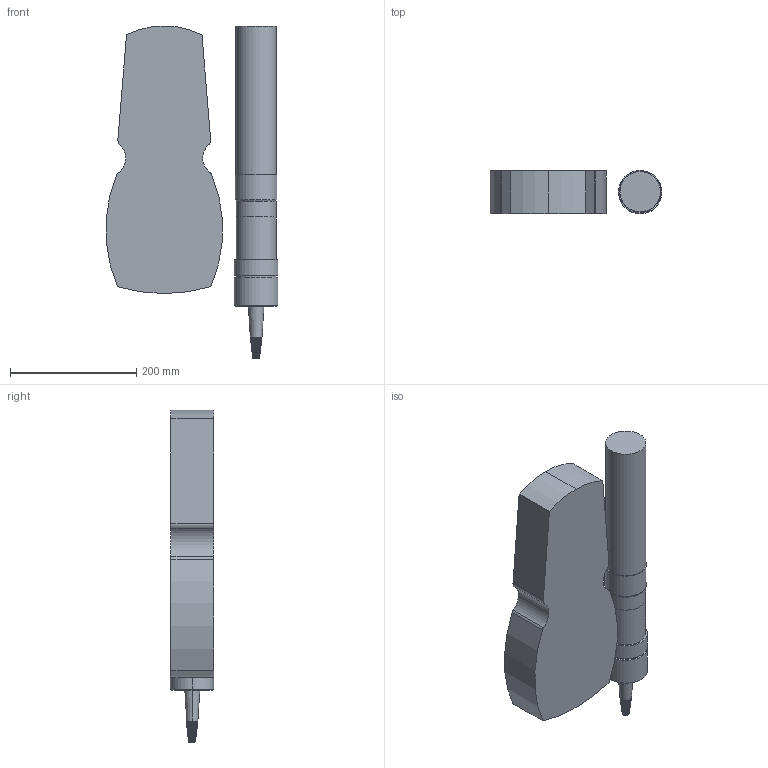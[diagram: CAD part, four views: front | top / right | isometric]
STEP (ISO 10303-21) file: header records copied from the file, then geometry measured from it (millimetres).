
FILE_DESCRIPTION((''),'2;1');
FILE_NAME('ASM0010_ASM','2026-01-26T10:12:24',('28740194'),(''),'CREO PARAMETRIC BY PTC INC, 2024063','CREO PARAMETRIC BY PTC INC, 2024063','');
FILE_SCHEMA(('CONFIG_CONTROL_DESIGN'));
Length unit declared in the file: millimetre
Products named in the file (3): 222; 111; ASM0010_ASM
Assembly tree (2 placements, depth 2):
  ASM0010_ASM
    222
    111
Bounding box: 272.44 x 69 x 526.65 mm (x, y, z)
Volume: 5710613.5 mm3; surface area: 306652.5 mm2
Topology: 2 solids, 2 shells, 579 faces, 1619 edges, 1075 vertices
Faces by surface type: plane 492, cone 48, cylinder 25, bspline 14
Entity records: 23103 total; most frequent: CARTESIAN_POINT 8312, ORIENTED_EDGE 3238, DIRECTION 2703, EDGE_CURVE 1619, VECTOR 1455, LINE 1455, VERTEX_POINT 1075, AXIS2_PLACEMENT_3D 624
